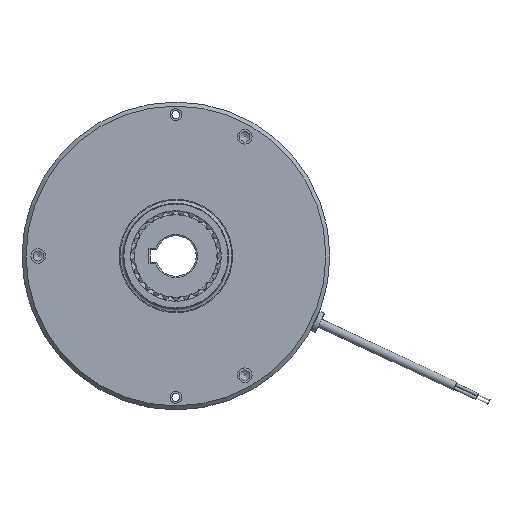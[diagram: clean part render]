
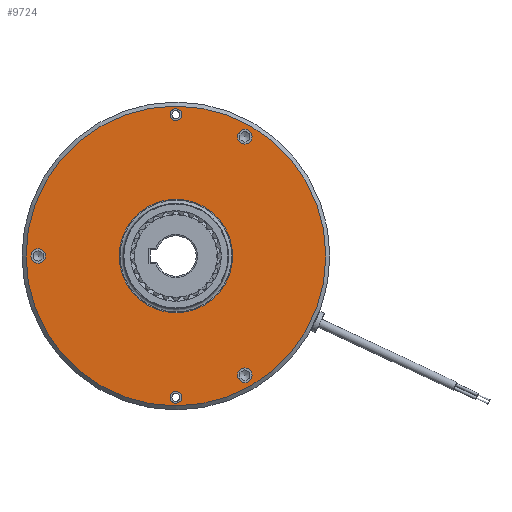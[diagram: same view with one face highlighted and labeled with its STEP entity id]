
A CAD part, left-side view. The second image highlights one B-rep face of the part: STEP entity #9724.
In plain terms, the highlighted planar face has unit normal (-1, 0, 0).
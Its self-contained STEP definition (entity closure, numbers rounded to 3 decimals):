
#744=FACE_BOUND('',#2341,.T.);
#745=FACE_BOUND('',#2342,.T.);
#746=FACE_BOUND('',#2343,.T.);
#747=FACE_BOUND('',#2344,.T.);
#748=FACE_BOUND('',#2345,.T.);
#749=FACE_BOUND('',#2346,.T.);
#1278=CIRCLE('',#10743,35.);
#1281=CIRCLE('',#10747,4.5);
#1284=CIRCLE('',#10751,4.5);
#1287=CIRCLE('',#10755,4.5);
#1288=CIRCLE('',#10757,92.5);
#1289=CIRCLE('',#10758,3.65);
#1290=CIRCLE('',#10759,3.65);
#1291=CIRCLE('',#10760,3.65);
#1292=CIRCLE('',#10761,3.65);
#1797=FACE_OUTER_BOUND('',#2340,.T.);
#2340=EDGE_LOOP('',(#7926));
#2341=EDGE_LOOP('',(#7927,#7928));
#2342=EDGE_LOOP('',(#7929,#7930));
#2343=EDGE_LOOP('',(#7931));
#2344=EDGE_LOOP('',(#7932));
#2345=EDGE_LOOP('',(#7933));
#2346=EDGE_LOOP('',(#7934));
#4145=VERTEX_POINT('',#17271);
#4148=VERTEX_POINT('',#17279);
#4151=VERTEX_POINT('',#17287);
#4154=VERTEX_POINT('',#17295);
#4155=VERTEX_POINT('',#17299);
#4156=VERTEX_POINT('',#17301);
#4157=VERTEX_POINT('',#17302);
#4158=VERTEX_POINT('',#17305);
#4159=VERTEX_POINT('',#17306);
#5457=EDGE_CURVE('',#4145,#4145,#1278,.T.);
#5461=EDGE_CURVE('',#4148,#4148,#1281,.T.);
#5465=EDGE_CURVE('',#4151,#4151,#1284,.T.);
#5469=EDGE_CURVE('',#4154,#4154,#1287,.T.);
#5470=EDGE_CURVE('',#4155,#4155,#1288,.T.);
#5471=EDGE_CURVE('',#4156,#4157,#1289,.T.);
#5472=EDGE_CURVE('',#4157,#4156,#1290,.T.);
#5473=EDGE_CURVE('',#4158,#4159,#1291,.T.);
#5474=EDGE_CURVE('',#4159,#4158,#1292,.T.);
#7926=ORIENTED_EDGE('',*,*,#5470,.F.);
#7927=ORIENTED_EDGE('',*,*,#5471,.T.);
#7928=ORIENTED_EDGE('',*,*,#5472,.T.);
#7929=ORIENTED_EDGE('',*,*,#5473,.T.);
#7930=ORIENTED_EDGE('',*,*,#5474,.T.);
#7931=ORIENTED_EDGE('',*,*,#5457,.T.);
#7932=ORIENTED_EDGE('',*,*,#5461,.T.);
#7933=ORIENTED_EDGE('',*,*,#5465,.T.);
#7934=ORIENTED_EDGE('',*,*,#5469,.T.);
#8785=PLANE('',#10756);
#9724=ADVANCED_FACE('',(#1797,#744,#745,#746,#747,#748,#749),#8785,.T.);
#10743=AXIS2_PLACEMENT_3D('',#17273,#13055,#13056);
#10747=AXIS2_PLACEMENT_3D('',#17281,#13064,#13065);
#10751=AXIS2_PLACEMENT_3D('',#17289,#13073,#13074);
#10755=AXIS2_PLACEMENT_3D('',#17297,#13082,#13083);
#10756=AXIS2_PLACEMENT_3D('',#17298,#13084,#13085);
#10757=AXIS2_PLACEMENT_3D('',#17300,#13086,#13087);
#10758=AXIS2_PLACEMENT_3D('',#17303,#13088,#13089);
#10759=AXIS2_PLACEMENT_3D('',#17304,#13090,#13091);
#10760=AXIS2_PLACEMENT_3D('',#17307,#13092,#13093);
#10761=AXIS2_PLACEMENT_3D('',#17308,#13094,#13095);
#13055=DIRECTION('center_axis',(1.,0.,0.));
#13056=DIRECTION('ref_axis',(0.,0.,1.));
#13064=DIRECTION('center_axis',(1.,0.,0.));
#13065=DIRECTION('ref_axis',(0.,0.,-1.));
#13073=DIRECTION('center_axis',(1.,0.,0.));
#13074=DIRECTION('ref_axis',(0.,0.,-1.));
#13082=DIRECTION('center_axis',(1.,0.,0.));
#13083=DIRECTION('ref_axis',(0.,0.,-1.));
#13084=DIRECTION('center_axis',(-1.,0.,0.));
#13085=DIRECTION('ref_axis',(0.,0.,1.));
#13086=DIRECTION('center_axis',(1.,0.,0.));
#13087=DIRECTION('ref_axis',(0.,-1.,0.));
#13088=DIRECTION('center_axis',(1.,0.,0.));
#13089=DIRECTION('ref_axis',(0.,0.,1.));
#13090=DIRECTION('center_axis',(1.,0.,0.));
#13091=DIRECTION('ref_axis',(0.,0.,1.));
#13092=DIRECTION('center_axis',(1.,0.,0.));
#13093=DIRECTION('ref_axis',(0.,0.,1.));
#13094=DIRECTION('center_axis',(1.,0.,0.));
#13095=DIRECTION('ref_axis',(0.,0.,1.));
#17271=CARTESIAN_POINT('',(-51.7,0.,-35.));
#17273=CARTESIAN_POINT('Origin',(-51.7,0.,0.));
#17279=CARTESIAN_POINT('',(-51.7,-42.5,-69.112));
#17281=CARTESIAN_POINT('Origin',(-51.7,-42.5,-73.612));
#17287=CARTESIAN_POINT('',(-51.7,85.,4.5));
#17289=CARTESIAN_POINT('Origin',(-51.7,85.,0.));
#17295=CARTESIAN_POINT('',(-51.7,-42.5,78.112));
#17297=CARTESIAN_POINT('Origin',(-51.7,-42.5,73.612));
#17298=CARTESIAN_POINT('Origin',(-51.7,47.5,0.));
#17299=CARTESIAN_POINT('',(-51.7,92.5,0.));
#17300=CARTESIAN_POINT('Origin',(-51.7,0.,0.));
#17301=CARTESIAN_POINT('',(-51.7,0.,-83.6));
#17302=CARTESIAN_POINT('',(-51.7,0.,-90.9));
#17303=CARTESIAN_POINT('Origin',(-51.7,0.,-87.25));
#17304=CARTESIAN_POINT('Origin',(-51.7,0.,-87.25));
#17305=CARTESIAN_POINT('',(-51.7,0.,90.9));
#17306=CARTESIAN_POINT('',(-51.7,0.,83.6));
#17307=CARTESIAN_POINT('Origin',(-51.7,0.,87.25));
#17308=CARTESIAN_POINT('Origin',(-51.7,0.,87.25));
